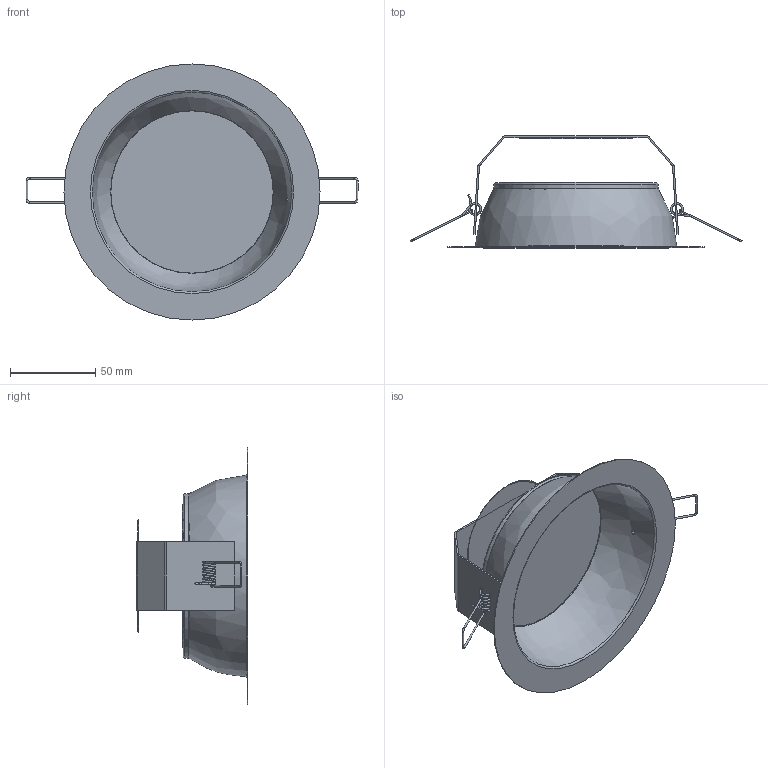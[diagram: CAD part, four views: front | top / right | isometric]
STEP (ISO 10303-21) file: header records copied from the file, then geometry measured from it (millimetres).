
FILE_DESCRIPTION(/* description */ (''),/* implementation_level */ '2;1');
FILE_NAME(/* name */ 'NEW_WHITE_150_NWI150P.stp',/* time_stamp */ '2025-09-22T14:09:12+02:00',/* author */ ('gian.noche'),/* organization */ (''),/* preprocessor_version */ 'ST-DEVELOPER v19.2',/* originating_system */ 'Autodesk Inventor 2023',/* authorisation */ '');
FILE_SCHEMA (('AUTOMOTIVE_DESIGN { 1 0 10303 214 3 1 1 }'));
Length unit declared in the file: millimetre
Products named in the file (1): IDP_146_NEW_WHITE_150_Semplifica_1
Bounding box: 194.4 x 65.5 x 150 mm (x, y, z)
Volume: 160747.8 mm3; surface area: 74115.6 mm2
Topology: 1 solids, 1 shells, 127 faces, 284 edges, 166 vertices
Faces by surface type: bspline 53, plane 41, cylinder 19, torus 13, cone 1
Full cylindrical faces by diameter (mm): 1 x5, 95 x1, 95.2 x1, 96.2 x1, 150 x1
Entity records: 9034 total; most frequent: CARTESIAN_POINT 6420, ORIENTED_EDGE 568, DIRECTION 400, EDGE_CURVE 284, EDGE_LOOP 190, VERTEX_POINT 166, AXIS2_PLACEMENT_3D 157, FACE_OUTER_BOUND 127
